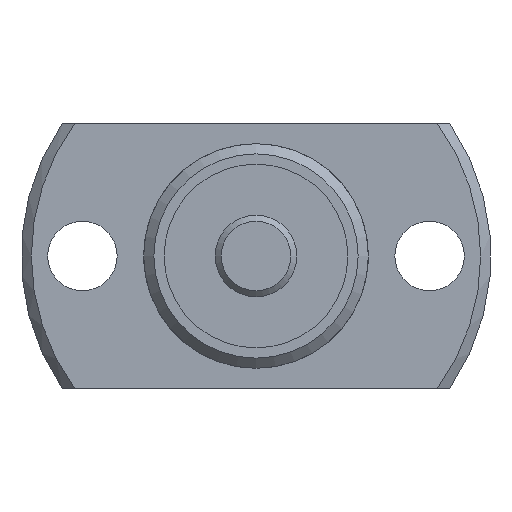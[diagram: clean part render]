
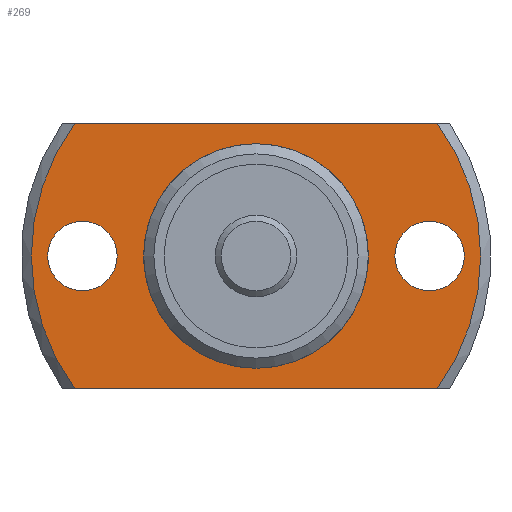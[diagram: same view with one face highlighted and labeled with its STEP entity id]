
A CAD part, left-side view. The second image highlights one B-rep face of the part: STEP entity #269.
In plain terms, the highlighted planar face has unit normal (-1, 0, 0).
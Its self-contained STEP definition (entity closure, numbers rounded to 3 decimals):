
#269 = ADVANCED_FACE( '', ( #545, #546, #547, #548 ), #549, .F. );
#545 = FACE_OUTER_BOUND( '', #807, .T. );
#546 = FACE_BOUND( '', #808, .T. );
#547 = FACE_BOUND( '', #809, .T. );
#548 = FACE_BOUND( '', #810, .T. );
#549 = PLANE( '', #811 );
#807 = EDGE_LOOP( '', ( #1360, #1361, #1362, #1363 ) );
#808 = EDGE_LOOP( '', ( #1364 ) );
#809 = EDGE_LOOP( '', ( #1365 ) );
#810 = EDGE_LOOP( '', ( #1366 ) );
#811 = AXIS2_PLACEMENT_3D( '', #1367, #1368, #1369 );
#1360 = ORIENTED_EDGE( '', *, *, #1604, .F. );
#1361 = ORIENTED_EDGE( '', *, *, #1595, .T. );
#1362 = ORIENTED_EDGE( '', *, *, #1462, .F. );
#1363 = ORIENTED_EDGE( '', *, *, #1551, .T. );
#1364 = ORIENTED_EDGE( '', *, *, #1503, .T. );
#1365 = ORIENTED_EDGE( '', *, *, #1600, .T. );
#1366 = ORIENTED_EDGE( '', *, *, #1494, .T. );
#1367 = CARTESIAN_POINT( '', ( 13., 5.3, 0. ) );
#1368 = DIRECTION( '', ( 1., 0., 0. ) );
#1369 = DIRECTION( '', ( 0., 0., -1. ) );
#1462 = EDGE_CURVE( '', #1725, #1726, #1727, .T. );
#1494 = EDGE_CURVE( '', #1776, #1776, #1777, .T. );
#1503 = EDGE_CURVE( '', #1790, #1790, #1791, .T. );
#1551 = EDGE_CURVE( '', #1725, #1856, #1858, .T. );
#1595 = EDGE_CURVE( '', #1911, #1726, #1912, .T. );
#1600 = EDGE_CURVE( '', #1918, #1918, #1919, .T. );
#1604 = EDGE_CURVE( '', #1911, #1856, #1923, .T. );
#1725 = VERTEX_POINT( '', #2077 );
#1726 = VERTEX_POINT( '', #2078 );
#1727 = CIRCLE( '', #2079, 11. );
#1776 = VERTEX_POINT( '', #2155 );
#1777 = CIRCLE( '', #2156, 5.3 );
#1790 = VERTEX_POINT( '', #2173 );
#1791 = CIRCLE( '', #2174, 1.7 );
#1856 = VERTEX_POINT( '', #2277 );
#1858 = LINE( '', #2282, #2283 );
#1911 = VERTEX_POINT( '', #2361 );
#1912 = LINE( '', #2362, #2363 );
#1918 = VERTEX_POINT( '', #2373 );
#1919 = CIRCLE( '', #2374, 1.7 );
#1923 = CIRCLE( '', #2378, 11. );
#2077 = CARTESIAN_POINT( '', ( 13., -8.874, 6.5 ) );
#2078 = CARTESIAN_POINT( '', ( 13., -8.874, -6.5 ) );
#2079 = AXIS2_PLACEMENT_3D( '', #2496, #2497, #2498 );
#2155 = CARTESIAN_POINT( '', ( 13., 0., -5.3 ) );
#2156 = AXIS2_PLACEMENT_3D( '', #2535, #2536, #2537 );
#2173 = CARTESIAN_POINT( '', ( 13., 8.5, -1.7 ) );
#2174 = AXIS2_PLACEMENT_3D( '', #2548, #2549, #2550 );
#2277 = CARTESIAN_POINT( '', ( 13., 8.874, 6.5 ) );
#2282 = CARTESIAN_POINT( '', ( 13., 5.3, 6.5 ) );
#2283 = VECTOR( '', #2601, 1000. );
#2361 = CARTESIAN_POINT( '', ( 13., 8.874, -6.5 ) );
#2362 = CARTESIAN_POINT( '', ( 13., 5.3, -6.5 ) );
#2363 = VECTOR( '', #2630, 1000. );
#2373 = CARTESIAN_POINT( '', ( 13., -8.5, -1.7 ) );
#2374 = AXIS2_PLACEMENT_3D( '', #2632, #2633, #2634 );
#2378 = AXIS2_PLACEMENT_3D( '', #2638, #2639, #2640 );
#2496 = CARTESIAN_POINT( '', ( 13., 0., 0. ) );
#2497 = DIRECTION( '', ( 1., 0., 0. ) );
#2498 = DIRECTION( '', ( 0., 0., -1. ) );
#2535 = CARTESIAN_POINT( '', ( 13., 0., 0. ) );
#2536 = DIRECTION( '', ( 1., 0., 0. ) );
#2537 = DIRECTION( '', ( 0., 0., -1. ) );
#2548 = CARTESIAN_POINT( '', ( 13., 8.5, 0. ) );
#2549 = DIRECTION( '', ( 1., 0., 0. ) );
#2550 = DIRECTION( '', ( 0., 0., -1. ) );
#2601 = DIRECTION( '', ( 0., 1., 0. ) );
#2630 = DIRECTION( '', ( 0., -1., 0. ) );
#2632 = CARTESIAN_POINT( '', ( 13., -8.5, 0. ) );
#2633 = DIRECTION( '', ( 1., 0., 0. ) );
#2634 = DIRECTION( '', ( 0., 0., -1. ) );
#2638 = CARTESIAN_POINT( '', ( 13., 0., 0. ) );
#2639 = DIRECTION( '', ( 1., 0., 0. ) );
#2640 = DIRECTION( '', ( 0., 0., -1. ) );
